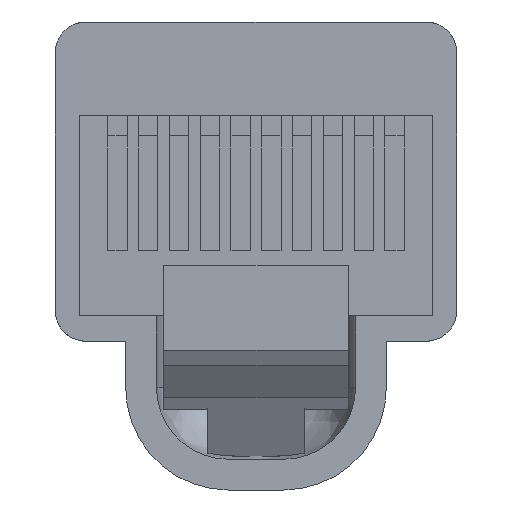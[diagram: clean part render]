
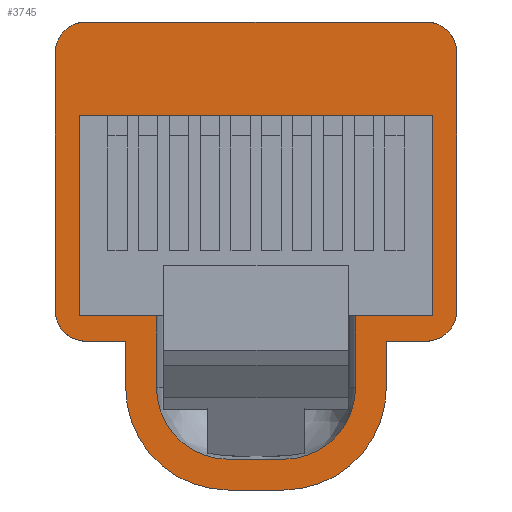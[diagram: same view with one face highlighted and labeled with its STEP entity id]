
A CAD part, left-side view. The second image highlights one B-rep face of the part: STEP entity #3745.
In plain terms, the highlighted planar face has unit normal (-1, 0, 0).
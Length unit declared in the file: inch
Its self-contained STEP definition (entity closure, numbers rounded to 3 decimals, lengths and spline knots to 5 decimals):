
#389=DIRECTION('',(0.,-1.,0.));
#390=VECTOR('',#389,0.46);
#391=CARTESIAN_POINT('',(0.519,0.,0.));
#392=LINE('',#391,#390);
#409=DIRECTION('',(0.,0.,-1.));
#410=VECTOR('',#409,0.26);
#411=CARTESIAN_POINT('',(0.519,-0.46,0.));
#412=LINE('',#411,#410);
#417=CARTESIAN_POINT('',(0.519,-0.451,-0.253));
#418=DIRECTION('',(-1.,0.,0.));
#419=DIRECTION('',(0.,0.,-1.));
#420=AXIS2_PLACEMENT_3D('',#417,#418,#419);
#422=DIRECTION('',(0.,1.,0.));
#423=VECTOR('',#422,0.05155);
#424=CARTESIAN_POINT('',(0.519,-0.451,-0.293));
#425=LINE('',#424,#423);
#426=DIRECTION('',(0.,0.,-1.));
#427=VECTOR('',#426,0.06);
#428=CARTESIAN_POINT('',(0.519,-0.39945,-0.293));
#429=LINE('',#428,#427);
#430=CARTESIAN_POINT('',(0.519,-0.2661,-0.353));
#431=DIRECTION('',(1.,0.,0.));
#432=DIRECTION('',(0.,-1.,0.));
#433=AXIS2_PLACEMENT_3D('',#430,#431,#432);
#435=DIRECTION('',(0.,1.,0.));
#436=VECTOR('',#435,0.07221);
#437=CARTESIAN_POINT('',(0.519,-0.2661,-0.48635));
#438=LINE('',#437,#436);
#439=CARTESIAN_POINT('',(0.519,-0.1939,-0.353));
#440=DIRECTION('',(-1.,0.,0.));
#441=DIRECTION('',(0.,1.,0.));
#442=AXIS2_PLACEMENT_3D('',#439,#440,#441);
#444=DIRECTION('',(0.,0.,-1.));
#445=VECTOR('',#444,0.06);
#446=CARTESIAN_POINT('',(0.519,-0.06055,-0.293));
#447=LINE('',#446,#445);
#448=DIRECTION('',(0.,1.,0.));
#449=VECTOR('',#448,0.05155);
#450=CARTESIAN_POINT('',(0.519,-0.06055,-0.293));
#451=LINE('',#450,#449);
#452=CARTESIAN_POINT('',(0.519,-0.009,-0.253));
#453=DIRECTION('',(-1.,0.,0.));
#454=DIRECTION('',(0.,1.,0.));
#455=AXIS2_PLACEMENT_3D('',#452,#453,#454);
#457=DIRECTION('',(0.,0.,1.));
#458=VECTOR('',#457,0.335);
#459=CARTESIAN_POINT('',(0.519,0.031,-0.253));
#460=LINE('',#459,#458);
#461=CARTESIAN_POINT('',(0.519,-0.009,0.082));
#462=DIRECTION('',(-1.,0.,0.));
#463=DIRECTION('',(0.,0.,1.));
#464=AXIS2_PLACEMENT_3D('',#461,#462,#463);
#466=DIRECTION('',(0.,-1.,0.));
#467=VECTOR('',#466,0.442);
#468=CARTESIAN_POINT('',(0.519,-0.009,0.122));
#469=LINE('',#468,#467);
#470=CARTESIAN_POINT('',(0.519,-0.451,0.082));
#471=DIRECTION('',(-1.,0.,0.));
#472=DIRECTION('',(0.,-1.,0.));
#473=AXIS2_PLACEMENT_3D('',#470,#471,#472);
#475=DIRECTION('',(0.,0.,-1.));
#476=VECTOR('',#475,0.335);
#477=CARTESIAN_POINT('',(0.519,-0.491,0.082));
#478=LINE('',#477,#476);
#479=CARTESIAN_POINT('',(0.519,-0.1939,-0.353));
#480=DIRECTION('',(1.,0.,0.));
#481=DIRECTION('',(0.,0.,-1.));
#482=AXIS2_PLACEMENT_3D('',#479,#480,#481);
#484=DIRECTION('',(0.,-1.,0.));
#485=VECTOR('',#484,0.07221);
#486=CARTESIAN_POINT('',(0.519,-0.1939,-0.44635));
#487=LINE('',#486,#485);
#488=CARTESIAN_POINT('',(0.519,-0.2661,-0.353));
#489=DIRECTION('',(-1.,0.,0.));
#490=DIRECTION('',(0.,0.,-1.));
#491=AXIS2_PLACEMENT_3D('',#488,#489,#490);
#1864=DIRECTION('',(0.,0.,1.));
#1865=VECTOR('',#1864,0.093);
#1866=CARTESIAN_POINT('',(0.519,-0.10055,-0.353));
#1867=LINE('',#1866,#1865);
#1868=DIRECTION('',(0.,0.,-1.));
#1869=VECTOR('',#1868,0.093);
#1870=CARTESIAN_POINT('',(0.519,-0.35945,-0.26));
#1871=LINE('',#1870,#1869);
#1877=DIRECTION('',(0.,1.,0.));
#1878=VECTOR('',#1877,0.10055);
#1879=CARTESIAN_POINT('',(0.519,-0.46,-0.26));
#1880=LINE('',#1879,#1878);
#1886=DIRECTION('',(0.,1.,0.));
#1887=VECTOR('',#1886,0.10055);
#1888=CARTESIAN_POINT('',(0.519,-0.10055,-0.26));
#1889=LINE('',#1888,#1887);
#1906=DIRECTION('',(0.,0.,1.));
#1907=VECTOR('',#1906,0.26);
#1908=CARTESIAN_POINT('',(0.519,0.,-0.26));
#1909=LINE('',#1908,#1907);
#2929=CARTESIAN_POINT('',(0.519,0.,0.));
#2930=CARTESIAN_POINT('',(0.519,-0.46,0.));
#2931=VERTEX_POINT('',#2929);
#2932=VERTEX_POINT('',#2930);
#2933=CARTESIAN_POINT('',(0.519,-0.46,-0.26));
#2934=VERTEX_POINT('',#2933);
#2935=CARTESIAN_POINT('',(0.519,0.,-0.26));
#2936=VERTEX_POINT('',#2935);
#2937=CARTESIAN_POINT('',(0.519,-0.06055,-0.353));
#2938=CARTESIAN_POINT('',(0.519,-0.1939,-0.48635));
#2939=VERTEX_POINT('',#2937);
#2940=VERTEX_POINT('',#2938);
#2941=CARTESIAN_POINT('',(0.519,-0.1939,-0.44635));
#2942=CARTESIAN_POINT('',(0.519,-0.10055,-0.353));
#2943=VERTEX_POINT('',#2941);
#2944=VERTEX_POINT('',#2942);
#2945=CARTESIAN_POINT('',(0.519,-0.39945,-0.353));
#2946=CARTESIAN_POINT('',(0.519,-0.2661,-0.48635));
#2947=VERTEX_POINT('',#2945);
#2948=VERTEX_POINT('',#2946);
#2949=CARTESIAN_POINT('',(0.519,-0.2661,-0.44635));
#2950=CARTESIAN_POINT('',(0.519,-0.35945,-0.353));
#2951=VERTEX_POINT('',#2949);
#2952=VERTEX_POINT('',#2950);
#2959=CARTESIAN_POINT('',(0.519,-0.39945,-0.293));
#2960=CARTESIAN_POINT('',(0.519,-0.06055,-0.293));
#2961=VERTEX_POINT('',#2959);
#2962=VERTEX_POINT('',#2960);
#2963=CARTESIAN_POINT('',(0.519,-0.35945,-0.26));
#2964=VERTEX_POINT('',#2963);
#2965=CARTESIAN_POINT('',(0.519,-0.10055,-0.26));
#2966=VERTEX_POINT('',#2965);
#2969=CARTESIAN_POINT('',(0.519,-0.451,-0.293));
#2970=CARTESIAN_POINT('',(0.519,-0.491,-0.253));
#2971=VERTEX_POINT('',#2969);
#2972=VERTEX_POINT('',#2970);
#2978=CARTESIAN_POINT('',(0.519,-0.491,0.082));
#2979=CARTESIAN_POINT('',(0.519,-0.451,0.122));
#2980=VERTEX_POINT('',#2978);
#2981=VERTEX_POINT('',#2979);
#2988=CARTESIAN_POINT('',(0.519,0.031,-0.253));
#2989=CARTESIAN_POINT('',(0.519,-0.009,-0.293));
#2990=VERTEX_POINT('',#2988);
#2991=VERTEX_POINT('',#2989);
#3000=CARTESIAN_POINT('',(0.519,-0.009,0.122));
#3001=CARTESIAN_POINT('',(0.519,0.031,0.082));
#3002=VERTEX_POINT('',#3000);
#3003=VERTEX_POINT('',#3001);
#3690=CARTESIAN_POINT('',(0.519,0.,0.));
#3691=DIRECTION('',(1.,0.,0.));
#3692=DIRECTION('',(0.,-1.,0.));
#3693=AXIS2_PLACEMENT_3D('',#3690,#3691,#3692);
#3694=PLANE('',#3693);
#3696=ORIENTED_EDGE('',*,*,#3695,.F.);
#3698=ORIENTED_EDGE('',*,*,#3697,.T.);
#3700=ORIENTED_EDGE('',*,*,#3699,.T.);
#3702=ORIENTED_EDGE('',*,*,#3701,.T.);
#3704=ORIENTED_EDGE('',*,*,#3703,.T.);
#3706=ORIENTED_EDGE('',*,*,#3705,.F.);
#3708=ORIENTED_EDGE('',*,*,#3707,.F.);
#3710=ORIENTED_EDGE('',*,*,#3709,.T.);
#3712=ORIENTED_EDGE('',*,*,#3711,.F.);
#3714=ORIENTED_EDGE('',*,*,#3713,.T.);
#3716=ORIENTED_EDGE('',*,*,#3715,.F.);
#3718=ORIENTED_EDGE('',*,*,#3717,.T.);
#3720=ORIENTED_EDGE('',*,*,#3719,.F.);
#3722=ORIENTED_EDGE('',*,*,#3721,.T.);
#3723=EDGE_LOOP('',(#3696,#3698,#3700,#3702,#3704,#3706,#3708,#3710,#3712,#3714,
#3716,#3718,#3720,#3722));
#3724=FACE_OUTER_BOUND('',#3723,.F.);
#3726=ORIENTED_EDGE('',*,*,#3725,.F.);
#3728=ORIENTED_EDGE('',*,*,#3727,.F.);
#3730=ORIENTED_EDGE('',*,*,#3729,.T.);
#3732=ORIENTED_EDGE('',*,*,#3731,.T.);
#3734=ORIENTED_EDGE('',*,*,#3733,.F.);
#3736=ORIENTED_EDGE('',*,*,#3735,.F.);
#3737=ORIENTED_EDGE('',*,*,#3681,.F.);
#3738=ORIENTED_EDGE('',*,*,#3661,.F.);
#3740=ORIENTED_EDGE('',*,*,#3739,.F.);
#3742=ORIENTED_EDGE('',*,*,#3741,.F.);
#3743=EDGE_LOOP('',(#3726,#3728,#3730,#3732,#3734,#3736,#3737,#3738,#3740,
#3742));
#3744=FACE_BOUND('',#3743,.F.);
#3745=ADVANCED_FACE('',(#3724,#3744),#3694,.F.);
#421=CIRCLE('',#420,0.04);
#434=CIRCLE('',#433,0.13335);
#443=CIRCLE('',#442,0.13335);
#456=CIRCLE('',#455,0.04);
#465=CIRCLE('',#464,0.04);
#474=CIRCLE('',#473,0.04);
#483=CIRCLE('',#482,0.09335);
#492=CIRCLE('',#491,0.09335);
#3661=EDGE_CURVE('',#2931,#2932,#392,.T.);
#3681=EDGE_CURVE('',#2932,#2934,#412,.T.);
#3695=EDGE_CURVE('',#2971,#2972,#421,.T.);
#3697=EDGE_CURVE('',#2971,#2961,#425,.T.);
#3699=EDGE_CURVE('',#2961,#2947,#429,.T.);
#3701=EDGE_CURVE('',#2947,#2948,#434,.T.);
#3703=EDGE_CURVE('',#2948,#2940,#438,.T.);
#3705=EDGE_CURVE('',#2939,#2940,#443,.T.);
#3707=EDGE_CURVE('',#2962,#2939,#447,.T.);
#3709=EDGE_CURVE('',#2962,#2991,#451,.T.);
#3711=EDGE_CURVE('',#2990,#2991,#456,.T.);
#3713=EDGE_CURVE('',#2990,#3003,#460,.T.);
#3715=EDGE_CURVE('',#3002,#3003,#465,.T.);
#3717=EDGE_CURVE('',#3002,#2981,#469,.T.);
#3719=EDGE_CURVE('',#2980,#2981,#474,.T.);
#3721=EDGE_CURVE('',#2980,#2972,#478,.T.);
#3725=EDGE_CURVE('',#2944,#2966,#1867,.T.);
#3727=EDGE_CURVE('',#2943,#2944,#483,.T.);
#3729=EDGE_CURVE('',#2943,#2951,#487,.T.);
#3731=EDGE_CURVE('',#2951,#2952,#492,.T.);
#3733=EDGE_CURVE('',#2964,#2952,#1871,.T.);
#3735=EDGE_CURVE('',#2934,#2964,#1880,.T.);
#3739=EDGE_CURVE('',#2936,#2931,#1909,.T.);
#3741=EDGE_CURVE('',#2966,#2936,#1889,.T.);
